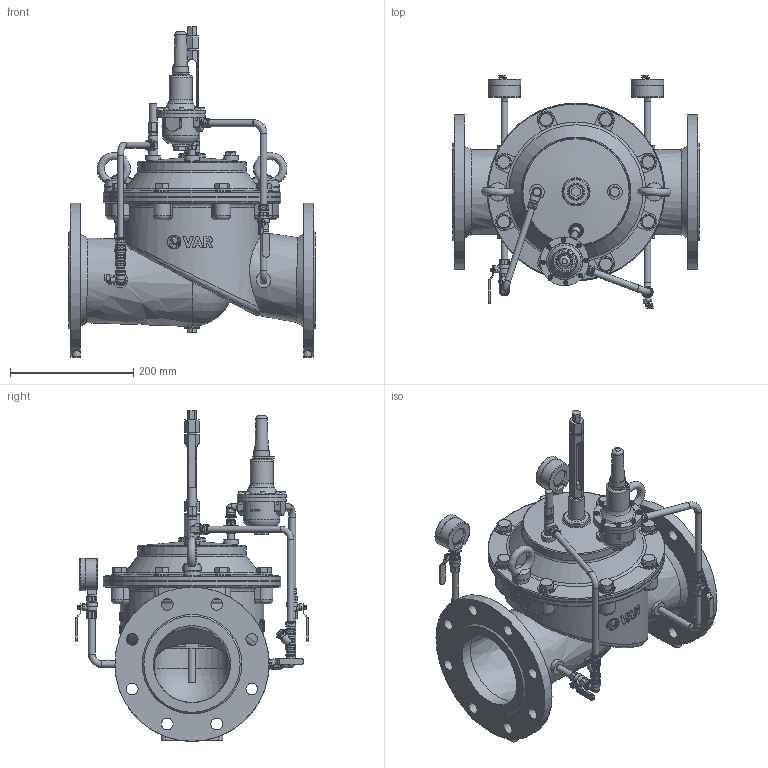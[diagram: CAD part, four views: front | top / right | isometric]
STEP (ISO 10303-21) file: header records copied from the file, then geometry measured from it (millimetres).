
FILE_DESCRIPTION(('STEP AP242'), '1');
FILE_NAME('PICO C200', '', ('UNSPECIFIED'), ('UNSPECIFIED'), 'C3D Converter', 'C3D Toolkit', '');
FILE_SCHEMA(('AP242_MANAGED_MODEL_BASED_3D_ENGINEERING_MIM_LF { 1 0 10303 442 1 1 4 }'));
Length unit declared in the file: millimetre
Products named in the file (26): М; ВР.752218.002
Assembly tree (61 placements, depth 3):
  (unnamed)
    (unnamed)
    (unnamed)
    (unnamed)
    (unnamed)
    (unnamed)
    (unnamed)
    (unnamed)
    М  x2
    (unnamed)
    (unnamed)  x4
    ВР.752218.002  x2
    (unnamed)  x6
    (unnamed)
    (unnamed)  x4
    (unnamed)
    (unnamed)
      (unnamed)
      (unnamed)
      (unnamed)  x8
      (unnamed)
    (unnamed)
    (unnamed)  x8
    (unnamed)  x8
    (unnamed)  x2
    (unnamed)  x2
Bounding box: 400 x 378 x 536 mm (x, y, z)
Volume: 5290503.1 mm3; surface area: 1497281.8 mm2
Topology: 67 solids, 69 shells, 2882 faces, 7259 edges, 4757 vertices
Faces by surface type: plane 1610, cylinder 620, cone 313, extrusion 131, torus 109, bspline 88, sphere 11
Full cylindrical faces by diameter (mm): 0.518 x2, 1.2 x1, 2.5 x2, 3 x8, 4 x25, 4.2 x4, 4.5 x4, 5 x2, 6 x8, 7 x8, 8 x5, 8.7 x1, 9 x16, 9.3 x6, 9.5 x2, 10 x4, 10.2 x4, 10.8 x2, 11 x18, 11.16 x4, 11.179 x6, 11.22 x4, 11.4 x2, 11.577 x2, 12 x12, 12.5 x3, 12.573 x15, 13.157 x2, 13.8 x4, 14 x38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
Entity records: 113996 total; most frequent: CARTESIAN_POINT 63973, ORIENTED_EDGE 7958, DIRECTION 7264, EDGE_CURVE 3979, VERTEX_POINT 2843, AXIS2_PLACEMENT_3D 2675, EDGE_LOOP 2428, FACE_BOUND 1915
